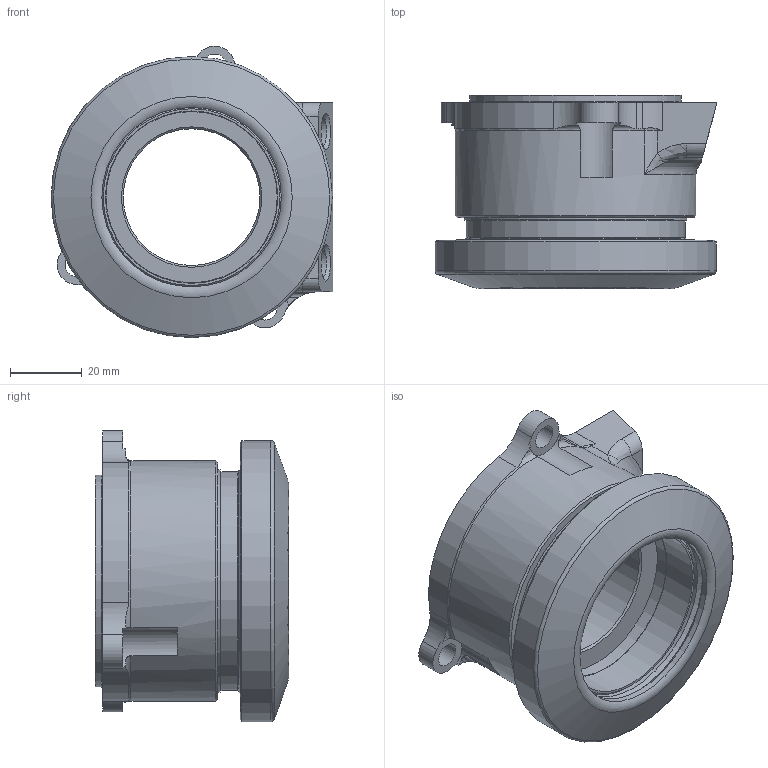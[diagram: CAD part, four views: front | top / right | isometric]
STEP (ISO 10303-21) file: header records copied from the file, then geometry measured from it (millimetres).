
FILE_DESCRIPTION(/* description */ ('Unknown'),/* implementation_level */ '2;1');
FILE_NAME(/* name */ '60-0420 ASSEMBLY',/* time_stamp */ '2024-10-14T10:32:47-07:00',/* author */ ('Unknown'),/* organization */ ('Unknown'),/* preprocessor_version */ 'ST-DEVELOPER v18.104',/* originating_system */ 'Solid Edge',/* authorisation */ 'Unknown');
FILE_SCHEMA (('AUTOMOTIVE_DESIGN {1 0 10303 214 3 1 1}'));
Length unit declared in the file: millimetre
Products named in the file (1): 60-0420 ASSEMBLY
Bounding box: 78.52 x 53.8 x 81.15 mm (x, y, z)
Volume: 114877.5 mm3; surface area: 47155.7 mm2
Topology: 24 solids, 24 shells, 224 faces, 555 edges, 368 vertices
Faces by surface type: plane 96, cylinder 57, cone 21, bspline 19, sphere 18, torus 13
Full cylindrical faces by diameter (mm): 6.756 x3, 8.379 x2, 38.1 x1, 47.714 x1, 48.006 x1, 50 x1, 50.794 x1, 50.8 x1, 57.214 x1, 58.938 x1, 59 x1, 59.032 x1, 60.96 x1, 61.5 x1, 61.925 x1, 62.4 x2, 67.056 x1, 69.7 x1, 73 x1, 74 x2, 78.3 x1
Entity records: 8118 total; most frequent: CARTESIAN_POINT 2331, DIRECTION 902, ORIENTED_EDGE 804, EDGE_CURVE 402, AXIS2_PLACEMENT_3D 370, FACE_BOUND 333, VERTEX_POINT 317, EDGE_LOOP 313
